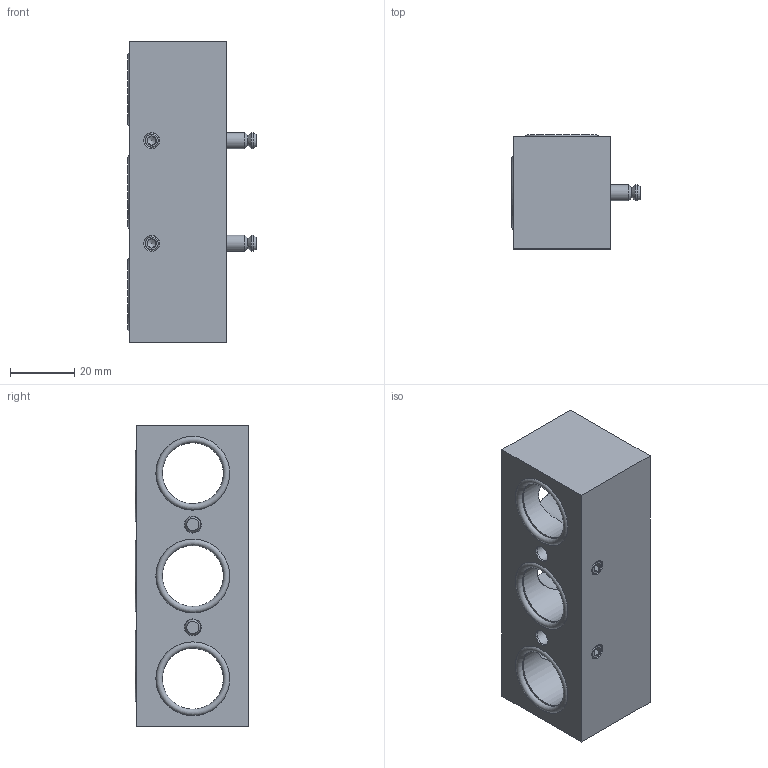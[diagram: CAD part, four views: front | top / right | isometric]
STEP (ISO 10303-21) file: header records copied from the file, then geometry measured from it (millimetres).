
FILE_DESCRIPTION( ( 'Unknown' ), '1' );
FILE_NAME( 'Q:/Solid Edge ST4/STEP/R 5 103 G.stp', 'Unknown', ( 'Unknown' ), ( 'Unknown' ), 'PSStep 17.0.49', 'Unknown', ' ' );
FILE_SCHEMA( ( 'AUTOMOTIVE_DESIGN { 1 0 10303 214 1 1 1 1 }' ) );
Length unit declared in the file: millimetre
Products named in the file (12): Assem1
Assembly tree (11 placements, depth 2):
  Assem1
    (unnamed)
    (unnamed)
    (unnamed)
    (unnamed)
    (unnamed)
    (unnamed)
    (unnamed)
    (unnamed)
    (unnamed)
    (unnamed)
    (unnamed)
Bounding box: 40.05 x 35.5 x 94 mm (x, y, z)
Surface area: 23506.8 mm2 (no closed solid volume)
Topology: 0 solids, 94 shells, 94 faces, 356 edges, 297 vertices
Faces by surface type: plane 32, cone 30, cylinder 26, torus 6
Full cylindrical faces by diameter (mm): 3.242 x4, 4.134 x2, 5 x8, 15 x3, 19 x3, 23 x6
Entity records: 4693 total; most frequent: CARTESIAN_POINT 1764, DIRECTION 544, VERTEX_POINT 270, ORIENTED_EDGE 260, EDGE_CURVE 260, AXIS2_PLACEMENT_3D 248, FACE_BOUND 174, EDGE_LOOP 164
